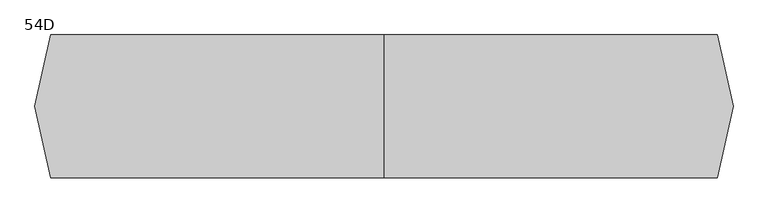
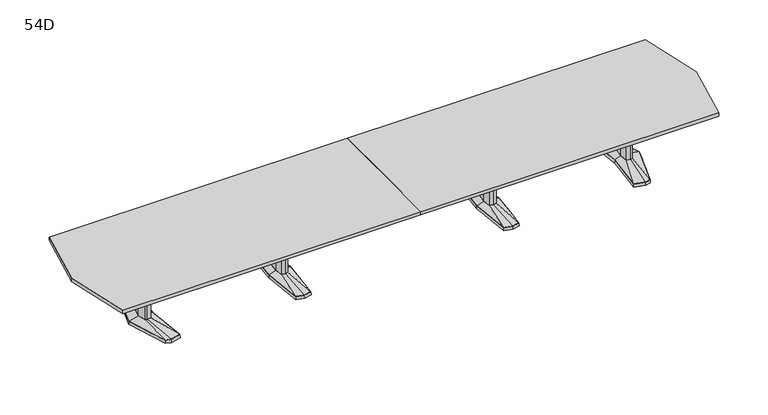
"""IFC4 building model written with IfcOpenShell, lengths in millimetres: furniture geometry, Coalesse_AM_Table_Conference_ETable2_Faceted_22ft_AluminiumBase : 54D."""

from ifc_helpers import new_model, si_unit, frame, origin, place, context, project, spatial, polyline, outline, extrude, faceted_brep, source, transform, mapped, element, save
from ifc_brep_helpers import plane_surface, spline_surface, advanced_brep


def furniture_54d_e478c1e4(model_context):
    return source(origin(), model_context, "Body", "SolidModel", [
        faceted_brep([(1036.3666209, -433.8053819, 38.1), (1117.6, -455.556576, 38.1), (1198.8333791, -433.8053819, 38.1), (1236.6564774, 0.0, 38.1), (1198.8333791, 433.8053819, 38.1), (1117.6, 455.556576, 38.1), (1036.3666209, 433.8053819, 38.1), (998.5435226, 0.0, 38.1), (1034.8817205, -435.0512063, 3.175), (996.95, 0.0, 3.175), (1034.8817205, 435.0512063, 3.175), (1117.6, 457.2, 3.175), (1200.3182795, 435.0512063, 3.175), (1238.25, 0.0, 3.175), (1200.3182795, -435.0512063, 3.175), (1117.6, -457.2, 3.175), (1117.6, 429.2617927, 3.175), (1039.6323194, 408.3850278, 3.175), (1042.8980179, 382.9646737, 3.175), (1117.6, 402.9670094, 3.175), (1192.3019821, 382.9646737, 3.175), (1195.5676806, 408.3850278, 3.175), (1117.6, -429.2617927, 3.175), (1195.5676806, -408.3850278, 3.175), (1192.3019821, -382.9646737, 3.175), (1117.6, -402.9670094, 3.175), (1042.8980179, -382.9646737, 3.175), (1039.6323194, -408.3850278, 3.175), (1045.7425738, 114.6326257, 3.175), (1035.0573924, 0.0, 3.175), (1045.7425738, -114.6326257, 3.175), (1117.6, -133.8761372, 3.175), (1189.4574262, -114.6326257, 3.175), (1200.1426076, 0.0, 3.175), (1189.4574262, 114.6326257, 3.175), (1117.6, 133.8761372, 3.175), (1117.6, 429.2617927, 0.0), (1195.5676806, 408.3850278, 0.0), (1192.3019821, 382.9646737, 0.0), (1117.6, 402.9670094, 0.0), (1042.8980179, 382.9646737, 0.0), (1039.6323194, 408.3850278, 0.0), (1117.6, -429.2617927, 0.0), (1039.6323194, -408.3850278, 0.0), (1042.8980179, -382.9646737, 0.0), (1117.6, -402.9670094, 0.0), (1192.3019821, -382.9646737, 0.0), (1195.5676806, -408.3850278, 0.0), (1045.7425738, 114.6326257, 0.0), (1117.6, 133.8761372, 0.0), (1189.4574262, 114.6326257, 0.0), (1200.1426076, 0.0, 0.0), (1189.4574262, -114.6326257, 0.0), (1117.6, -133.8761372, 0.0), (1045.7425738, -114.6326257, 0.0), (1035.0573924, 0.0, 0.0)], [[[0, 1, 2, 3, 4, 5, 6, 7]], [[8, 9, 10, 11, 12, 13, 14, 15], [16, 17, 18, 19, 20, 21], [22, 23, 24, 25, 26, 27], [28, 29, 30, 31, 32, 33, 34, 35]], [[1, 0, 8, 15]], [[2, 1, 15, 14]], [[3, 2, 14, 13]], [[4, 3, 13, 12]], [[5, 4, 12, 11]], [[6, 5, 11, 10]], [[7, 6, 10, 9]], [[0, 7, 9, 8]], [[36, 37, 38, 39, 40, 41]], [[42, 43, 44, 45, 46, 47]], [[48, 49, 50, 51, 52, 53, 54, 55]], [[36, 41, 17, 16]], [[41, 40, 18, 17]], [[40, 39, 19, 18]], [[39, 38, 20, 19]], [[38, 37, 21, 20]], [[37, 36, 16, 21]], [[42, 47, 23, 22]], [[47, 46, 24, 23]], [[46, 45, 25, 24]], [[45, 44, 26, 25]], [[44, 43, 27, 26]], [[43, 42, 22, 27]], [[48, 55, 29, 28]], [[55, 54, 30, 29]], [[54, 53, 31, 30]], [[53, 52, 32, 31]], [[52, 51, 33, 32]], [[51, 50, 34, 33]], [[50, 49, 35, 34]], [[49, 48, 28, 35]]]),
        faceted_brep([(1081.2167166, 84.6900825, 698.5), (1073.3225513, 0.0, 698.5), (1081.2167166, -84.6900825, 698.5), (1117.6, -94.4335728, 698.5), (1153.9832834, -84.6900825, 698.5), (1161.8774487, 0.0, 698.5), (1153.9832834, 84.6900825, 698.5), (1117.6, 94.4335728, 698.5), (1081.2167166, 84.6900825, 63.5), (1117.6, 94.4335728, 63.5), (1153.9832834, 84.6900825, 63.5), (1161.8774487, 0.0, 63.5), (1153.9832834, -84.6900825, 63.5), (1117.6, -94.4335728, 63.5), (1081.2167166, -84.6900825, 63.5), (1073.3225513, 0.0, 63.5)], [[[0, 1, 2, 3, 4, 5, 6, 7]], [[8, 9, 10, 11, 12, 13, 14, 15]], [[1, 0, 8, 15]], [[2, 1, 15, 14]], [[3, 2, 14, 13]], [[4, 3, 13, 12]], [[5, 4, 12, 11]], [[6, 5, 11, 10]], [[7, 6, 10, 9]], [[0, 7, 9, 8]]]),
        advanced_brep(
        [(1081.2167166, 84.6900825, 63.5), (1073.3225513, 0.0, 63.5), (1081.2167166, -84.6900825, 63.5), (1117.6, -94.4335728, 63.5), (1153.9832834, -84.6900825, 63.5), (1161.8774487, 0.0, 63.5), (1153.9832834, 84.6900825, 63.5), (1117.6, 94.4335728, 63.5), (1036.3666209, 433.8053819, 38.1), (1117.6, 455.556576, 38.1), (1198.8333791, 433.8053819, 38.1), (1236.6564774, 0.0, 38.1), (1198.8333791, -433.8053819, 38.1), (1117.6, -455.556576, 38.1), (1036.3666209, -433.8053819, 38.1), (998.5435226, 0.0, 38.1)],
        [
            (0, 1),
            (1, 2),
            (2, 3),
            (3, 4),
            (4, 5),
            (5, 6),
            (6, 7),
            (7, 0),
            (8, 9),
            (9, 10),
            (10, 11),
            (11, 12),
            (12, 13),
            (13, 14),
            (14, 15),
            (15, 8),
            (15, 1),
            (0, 8),
            (14, 2),
            (13, 3),
            (12, 4),
            (11, 5),
            (10, 6),
            (9, 7),
        ],
        [
            plane_surface(frame((1117.6, 0.0, 63.5), z_axis=(0.0, 0.0, 1.0000000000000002), x_axis=(-0.9659615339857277, -0.25868574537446, 0.0))),
            plane_surface(frame((1117.6, 0.0, 38.1), z_axis=(0.0, 0.0, -1.0000000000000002), x_axis=(-0.9659615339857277, -0.25868574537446, 0.0))),
            spline_surface(1, 1, [[(1036.3666209, 433.8053819, 38.1), (1081.2167166, 84.6900825, 63.5)], [(998.5435226, 0.0, 38.1), (1073.3225513, 0.0, 63.5)]], [2, 2], [2, 2], [0.0, 1.0], [0.0, 1.0]),
            spline_surface(1, 1, [[(998.5435226, 0.0, 38.1), (1073.3225513, 0.0, 63.5)], [(1036.3666209, -433.8053819, 38.1), (1081.2167166, -84.6900825, 63.5)]], [2, 2], [2, 2], [0.0, 1.0], [0.0, 1.0]),
            spline_surface(1, 1, [[(1036.3666209, -433.8053819, 38.1), (1081.2167166, -84.6900825, 63.5)], [(1117.6, -455.556576, 38.1), (1117.6, -94.4335728, 63.5)]], [2, 2], [2, 2], [0.0, 1.0], [0.0, 1.0]),
            spline_surface(1, 1, [[(1117.6, -455.556576, 38.1), (1117.6, -94.4335728, 63.5)], [(1198.8333791, -433.8053819, 38.1), (1153.9832834, -84.6900825, 63.5)]], [2, 2], [2, 2], [0.0, 1.0], [0.0, 1.0]),
            spline_surface(1, 1, [[(1198.8333791, -433.8053819, 38.1), (1153.9832834, -84.6900825, 63.5)], [(1236.6564774, 0.0, 38.1), (1161.8774487, 0.0, 63.5)]], [2, 2], [2, 2], [0.0, 1.0], [0.0, 1.0]),
            spline_surface(1, 1, [[(1236.6564774, 0.0, 38.1), (1161.8774487, 0.0, 63.5)], [(1198.8333791, 433.8053819, 38.1), (1153.9832834, 84.6900825, 63.5)]], [2, 2], [2, 2], [0.0, 1.0], [0.0, 1.0]),
            spline_surface(1, 1, [[(1198.8333791, 433.8053819, 38.1), (1153.9832834, 84.6900825, 63.5)], [(1117.6, 455.556576, 38.1), (1117.6, 94.4335728, 63.5)]], [2, 2], [2, 2], [0.0, 1.0], [0.0, 1.0]),
            spline_surface(1, 1, [[(1117.6, 455.556576, 38.1), (1117.6, 94.4335728, 63.5)], [(1036.3666209, 433.8053819, 38.1), (1081.2167166, 84.6900825, 63.5)]], [2, 2], [2, 2], [0.0, 1.0], [0.0, 1.0]),
        ],
        [
            (0, [[1, 2, 3, 4, 5, 6, 7, 8]]),
            (1, [[9, 10, 11, 12, 13, 14, 15, 16]]),
            (2, [[-16, 17, -1, 18]]),
            (3, [[-15, 19, -2, -17]]),
            (4, [[-14, 20, -3, -19]]),
            (5, [[-13, 21, -4, -20]]),
            (6, [[-12, 22, -5, -21]]),
            (7, [[-11, 23, -6, -22]]),
            (8, [[-10, 24, -7, -23]]),
            (9, [[-9, -18, -8, -24]]),
        ],
    ),
        faceted_brep([(-1198.8333791, -433.8053819, 38.1), (-1117.6, -455.556576, 38.1), (-1036.3666209, -433.8053819, 38.1), (-998.5435226, 0.0, 38.1), (-1036.3666209, 433.8053819, 38.1), (-1117.6, 455.556576, 38.1), (-1198.8333791, 433.8053819, 38.1), (-1236.6564774, 0.0, 38.1), (-1200.3182795, -435.0512063, 3.175), (-1238.25, 0.0, 3.175), (-1200.3182795, 435.0512063, 3.175), (-1117.6, 457.2, 3.175), (-1034.8817205, 435.0512063, 3.175), (-996.95, 0.0, 3.175), (-1034.8817205, -435.0512063, 3.175), (-1117.6, -457.2, 3.175), (-1117.6, 429.2617927, 3.175), (-1195.5676806, 408.3850278, 3.175), (-1192.3019821, 382.9646737, 3.175), (-1117.6, 402.9670094, 3.175), (-1042.8980179, 382.9646737, 3.175), (-1039.6323194, 408.3850278, 3.175), (-1117.6, -429.2617927, 3.175), (-1039.6323194, -408.3850278, 3.175), (-1042.8980179, -382.9646737, 3.175), (-1117.6, -402.9670094, 3.175), (-1192.3019821, -382.9646737, 3.175), (-1195.5676806, -408.3850278, 3.175), (-1189.4574262, 114.6326257, 3.175), (-1200.1426076, 0.0, 3.175), (-1189.4574262, -114.6326257, 3.175), (-1117.6, -133.8761372, 3.175), (-1045.7425738, -114.6326257, 3.175), (-1035.0573924, 0.0, 3.175), (-1045.7425738, 114.6326257, 3.175), (-1117.6, 133.8761372, 3.175), (-1117.6, 429.2617927, 0.0), (-1039.6323194, 408.3850278, 0.0), (-1042.8980179, 382.9646737, 0.0), (-1117.6, 402.9670094, 0.0), (-1192.3019821, 382.9646737, 0.0), (-1195.5676806, 408.3850278, 0.0), (-1117.6, -429.2617927, 0.0), (-1195.5676806, -408.3850278, 0.0), (-1192.3019821, -382.9646737, 0.0), (-1117.6, -402.9670094, 0.0), (-1042.8980179, -382.9646737, 0.0), (-1039.6323194, -408.3850278, 0.0), (-1189.4574262, 114.6326257, 0.0), (-1117.6, 133.8761372, 0.0), (-1045.7425738, 114.6326257, 0.0), (-1035.0573924, 0.0, 0.0), (-1045.7425738, -114.6326257, 0.0), (-1117.6, -133.8761372, 0.0), (-1189.4574262, -114.6326257, 0.0), (-1200.1426076, 0.0, 0.0)], [[[0, 1, 2, 3, 4, 5, 6, 7]], [[8, 9, 10, 11, 12, 13, 14, 15], [16, 17, 18, 19, 20, 21], [22, 23, 24, 25, 26, 27], [28, 29, 30, 31, 32, 33, 34, 35]], [[1, 0, 8, 15]], [[2, 1, 15, 14]], [[3, 2, 14, 13]], [[4, 3, 13, 12]], [[5, 4, 12, 11]], [[6, 5, 11, 10]], [[7, 6, 10, 9]], [[0, 7, 9, 8]], [[36, 37, 38, 39, 40, 41]], [[42, 43, 44, 45, 46, 47]], [[48, 49, 50, 51, 52, 53, 54, 55]], [[36, 41, 17, 16]], [[41, 40, 18, 17]], [[40, 39, 19, 18]], [[39, 38, 20, 19]], [[38, 37, 21, 20]], [[37, 36, 16, 21]], [[42, 47, 23, 22]], [[47, 46, 24, 23]], [[46, 45, 25, 24]], [[45, 44, 26, 25]], [[44, 43, 27, 26]], [[43, 42, 22, 27]], [[48, 55, 29, 28]], [[55, 54, 30, 29]], [[54, 53, 31, 30]], [[53, 52, 32, 31]], [[52, 51, 33, 32]], [[51, 50, 34, 33]], [[50, 49, 35, 34]], [[49, 48, 28, 35]]]),
        faceted_brep([(-1153.9832834, 84.6900825, 698.5), (-1161.8774487, 0.0, 698.5), (-1153.9832834, -84.6900825, 698.5), (-1117.6, -94.4335728, 698.5), (-1081.2167166, -84.6900825, 698.5), (-1073.3225513, 0.0, 698.5), (-1081.2167166, 84.6900825, 698.5), (-1117.6, 94.4335728, 698.5), (-1153.9832834, 84.6900825, 63.5), (-1117.6, 94.4335728, 63.5), (-1081.2167166, 84.6900825, 63.5), (-1073.3225513, 0.0, 63.5), (-1081.2167166, -84.6900825, 63.5), (-1117.6, -94.4335728, 63.5), (-1153.9832834, -84.6900825, 63.5), (-1161.8774487, 0.0, 63.5)], [[[0, 1, 2, 3, 4, 5, 6, 7]], [[8, 9, 10, 11, 12, 13, 14, 15]], [[1, 0, 8, 15]], [[2, 1, 15, 14]], [[3, 2, 14, 13]], [[4, 3, 13, 12]], [[5, 4, 12, 11]], [[6, 5, 11, 10]], [[7, 6, 10, 9]], [[0, 7, 9, 8]]]),
        advanced_brep(
        [(-1153.9832834, 84.6900825, 63.5), (-1161.8774487, 0.0, 63.5), (-1153.9832834, -84.6900825, 63.5), (-1117.6, -94.4335728, 63.5), (-1081.2167166, -84.6900825, 63.5), (-1073.3225513, 0.0, 63.5), (-1081.2167166, 84.6900825, 63.5), (-1117.6, 94.4335728, 63.5), (-1198.8333791, 433.8053819, 38.1), (-1117.6, 455.556576, 38.1), (-1036.3666209, 433.8053819, 38.1), (-998.5435226, 0.0, 38.1), (-1036.3666209, -433.8053819, 38.1), (-1117.6, -455.556576, 38.1), (-1198.8333791, -433.8053819, 38.1), (-1236.6564774, 0.0, 38.1)],
        [
            (0, 1),
            (1, 2),
            (2, 3),
            (3, 4),
            (4, 5),
            (5, 6),
            (6, 7),
            (7, 0),
            (8, 9),
            (9, 10),
            (10, 11),
            (11, 12),
            (12, 13),
            (13, 14),
            (14, 15),
            (15, 8),
            (15, 1),
            (0, 8),
            (14, 2),
            (13, 3),
            (12, 4),
            (11, 5),
            (10, 6),
            (9, 7),
        ],
        [
            plane_surface(frame((-1117.6, 0.0, 63.5), z_axis=(0.0, 0.0, 1.0000000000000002), x_axis=(-0.9659615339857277, -0.25868574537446, 0.0))),
            plane_surface(frame((-1117.6, 0.0, 38.1), z_axis=(0.0, 0.0, -1.0000000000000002), x_axis=(-0.9659615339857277, -0.25868574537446, 0.0))),
            spline_surface(1, 1, [[(-1198.8333791, 433.8053819, 38.1), (-1153.9832834, 84.6900825, 63.5)], [(-1236.6564774, 0.0, 38.1), (-1161.8774487, 0.0, 63.5)]], [2, 2], [2, 2], [0.0, 1.0], [0.0, 1.0]),
            spline_surface(1, 1, [[(-1236.6564774, 0.0, 38.1), (-1161.8774487, 0.0, 63.5)], [(-1198.8333791, -433.8053819, 38.1), (-1153.9832834, -84.6900825, 63.5)]], [2, 2], [2, 2], [0.0, 1.0], [0.0, 1.0]),
            spline_surface(1, 1, [[(-1198.8333791, -433.8053819, 38.1), (-1153.9832834, -84.6900825, 63.5)], [(-1117.6, -455.556576, 38.1), (-1117.6, -94.4335728, 63.5)]], [2, 2], [2, 2], [0.0, 1.0], [0.0, 1.0]),
            spline_surface(1, 1, [[(-1117.6, -455.556576, 38.1), (-1117.6, -94.4335728, 63.5)], [(-1036.3666209, -433.8053819, 38.1), (-1081.2167166, -84.6900825, 63.5)]], [2, 2], [2, 2], [0.0, 1.0], [0.0, 1.0]),
            spline_surface(1, 1, [[(-1036.3666209, -433.8053819, 38.1), (-1081.2167166, -84.6900825, 63.5)], [(-998.5435226, 0.0, 38.1), (-1073.3225513, 0.0, 63.5)]], [2, 2], [2, 2], [0.0, 1.0], [0.0, 1.0]),
            spline_surface(1, 1, [[(-998.5435226, 0.0, 38.1), (-1073.3225513, 0.0, 63.5)], [(-1036.3666209, 433.8053819, 38.1), (-1081.2167166, 84.6900825, 63.5)]], [2, 2], [2, 2], [0.0, 1.0], [0.0, 1.0]),
            spline_surface(1, 1, [[(-1036.3666209, 433.8053819, 38.1), (-1081.2167166, 84.6900825, 63.5)], [(-1117.6, 455.556576, 38.1), (-1117.6, 94.4335728, 63.5)]], [2, 2], [2, 2], [0.0, 1.0], [0.0, 1.0]),
            spline_surface(1, 1, [[(-1117.6, 455.556576, 38.1), (-1117.6, 94.4335728, 63.5)], [(-1198.8333791, 433.8053819, 38.1), (-1153.9832834, 84.6900825, 63.5)]], [2, 2], [2, 2], [0.0, 1.0], [0.0, 1.0]),
        ],
        [
            (0, [[1, 2, 3, 4, 5, 6, 7, 8]]),
            (1, [[9, 10, 11, 12, 13, 14, 15, 16]]),
            (2, [[-16, 17, -1, 18]]),
            (3, [[-15, 19, -2, -17]]),
            (4, [[-14, 20, -3, -19]]),
            (5, [[-13, 21, -4, -20]]),
            (6, [[-12, 22, -5, -21]]),
            (7, [[-11, 23, -6, -22]]),
            (8, [[-10, 24, -7, -23]]),
            (9, [[-9, -18, -8, -24]]),
        ],
    ),
        faceted_brep([(2548.0994335, 455.5848221, 38.1), (2438.5218777, 426.2263816, 38.1), (2479.6851217, 0.0, 38.1), (2438.5218777, -426.2263816, 38.1), (2548.0994335, -455.5848221, 38.1), (2604.2257896, -440.5478297, 38.1), (2741.5371769, 0.0, 38.1), (2604.2257896, 440.5478297, 38.1), (2548.0994254, 457.2283104, 3.175), (2605.4811972, 441.8549756, 3.175), (2743.2, 0.0, 3.175), (2605.4811972, -441.8549756, 3.175), (2548.0994254, -457.2283104, 3.175), (2436.8125, -427.4118891, 3.175), (2478.0902356, 0.0, 3.175), (2436.8125, 427.4118891, 3.175), (2551.688865, 428.3273875, 3.175), (2446.6405728, 402.1057253, 3.175), (2454.759268, 377.985069, 3.175), (2555.2782966, 401.0699529, 3.175), (2605.8379225, 387.524361, 3.175), (2605.0318561, 414.0360954, 3.175), (2551.688865, -428.3273875, 3.175), (2605.0318561, -414.0360954, 3.175), (2605.8379225, -387.524361, 3.175), (2555.2782966, -401.0699529, 3.175), (2454.759268, -377.985069, 3.175), (2446.6405728, -402.1057253, 3.175), (2678.2841121, 0.0, 3.175), (2646.0147111, 120.4193755, 3.175), (2597.3674722, 133.471665, 3.175), (2517.4868026, 119.4176561, 3.175), (2506.3555966, 0.0, 3.175), (2517.4868026, -119.4176561, 3.175), (2597.3674722, -133.471665, 3.175), (2646.0147111, -120.4193755, 3.175), (2551.688865, 428.3273875, 0.0), (2605.0318561, 414.0360954, 0.0), (2605.8379225, 387.524361, 0.0), (2555.2782966, 401.0699529, 0.0), (2454.759268, 377.985069, 0.0), (2446.6405728, 402.1057253, 0.0), (2551.688865, -428.3273875, 0.0), (2446.6405728, -402.1057253, 0.0), (2454.759268, -377.985069, 0.0), (2555.2782966, -401.0699529, 0.0), (2605.8379225, -387.524361, 0.0), (2605.0318561, -414.0360954, 0.0), (2678.2841121, 0.0, 0.0), (2646.0147111, -120.4193755, 0.0), (2597.3674722, -133.471665, 0.0), (2517.4868026, -119.4176561, 0.0), (2506.3555966, 0.0, 0.0), (2517.4868026, 119.4176561, 0.0), (2597.3674722, 133.471665, 0.0), (2646.0147111, 120.4193755, 0.0)], [[[0, 1, 2, 3, 4, 5, 6, 7]], [[8, 9, 10, 11, 12, 13, 14, 15], [16, 17, 18, 19, 20, 21], [22, 23, 24, 25, 26, 27], [28, 29, 30, 31, 32, 33, 34, 35]], [[7, 9, 8, 0]], [[6, 10, 9, 7]], [[5, 11, 10, 6]], [[4, 12, 11, 5]], [[3, 13, 12, 4]], [[2, 14, 13, 3]], [[1, 15, 14, 2]], [[0, 8, 15, 1]], [[36, 37, 38, 39, 40, 41]], [[42, 43, 44, 45, 46, 47]], [[48, 49, 50, 51, 52, 53, 54, 55]], [[36, 16, 21, 37]], [[37, 21, 20, 38]], [[38, 20, 19, 39]], [[39, 19, 18, 40]], [[40, 18, 17, 41]], [[41, 17, 16, 36]], [[42, 22, 27, 43]], [[43, 27, 26, 44]], [[44, 26, 25, 45]], [[45, 25, 24, 46]], [[46, 24, 23, 47]], [[47, 23, 22, 42]], [[48, 28, 35, 49]], [[49, 35, 34, 50]], [[50, 34, 33, 51]], [[51, 33, 32, 52]], [[52, 32, 31, 53]], [[53, 31, 30, 54]], [[54, 30, 29, 55]], [[55, 29, 28, 48]]]),
        faceted_brep([(2638.8398336, 0.0, 698.5), (2614.9046046, 89.3188359, 698.5), (2598.0512484, 93.8406728, 698.5), (2595.6514011, 94.4845635, 698.5), (2552.723896, 86.9320037, 698.5), (2544.6207556, 0.0, 698.5), (2552.723896, -86.9320037, 698.5), (2595.6514011, -94.4845635, 698.5), (2598.0512484, -93.8406728, 698.5), (2614.9046046, -89.3188359, 698.5), (2638.8398336, 0.0, 63.5), (2614.9046046, -89.3188359, 63.5), (2598.0512484, -93.8406728, 63.5), (2595.6514011, -94.4845635, 63.5), (2552.723896, -86.9320037, 63.5), (2544.6207556, 0.0, 63.5), (2552.723896, 86.9320037, 63.5), (2595.6514011, 94.4845635, 63.5), (2598.0512484, 93.8406728, 63.5), (2614.9046046, 89.3188359, 63.5)], [[[0, 1, 2, 3, 4, 5, 6, 7, 8, 9]], [[10, 11, 12, 13, 14, 15, 16, 17, 18, 19]], [[9, 11, 10, 0]], [[8, 12, 11, 9]], [[7, 13, 12, 8]], [[6, 14, 13, 7]], [[5, 15, 14, 6]], [[4, 16, 15, 5]], [[3, 17, 16, 4]], [[2, 18, 17, 3]], [[1, 19, 18, 2]], [[0, 10, 19, 1]]]),
        advanced_brep(
        [(2595.6514011, 94.4845635, 63.5), (2552.723896, 86.9320037, 63.5), (2544.6207556, 0.0, 63.5), (2552.723896, -86.9320037, 63.5), (2595.6514011, -94.4845635, 63.5), (2614.9046046, -89.3188359, 63.5), (2638.8398336, 0.0, 63.5), (2614.9046046, 89.3188359, 63.5), (2548.0994335, 455.5848221, 38.1), (2604.2257896, 440.5478297, 38.1), (2741.5371769, 0.0, 38.1), (2604.2257896, -440.5478297, 38.1), (2548.0994335, -455.5848221, 38.1), (2438.5218777, -426.2263816, 38.1), (2479.6851217, 0.0, 38.1), (2438.5218777, 426.2263816, 38.1)],
        [
            (0, 1),
            (1, 2),
            (2, 3),
            (3, 4),
            (4, 5),
            (5, 6),
            (6, 7),
            (7, 0),
            (8, 9),
            (9, 10),
            (10, 11),
            (11, 12),
            (12, 13),
            (13, 14),
            (14, 15),
            (15, 8),
            (8, 0),
            (7, 9),
            (6, 10),
            (5, 11),
            (4, 12),
            (3, 13),
            (2, 14),
            (1, 15),
        ],
        [
            plane_surface(frame((2588.7525491, 0.0, 63.5), z_axis=(0.0, 0.0, 1.0), x_axis=(-0.25884244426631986, -0.9659195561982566, 0.0))),
            plane_surface(frame((2550.3645625, 0.0, 38.1), z_axis=(0.0, 0.0, -1.0), x_axis=(-0.25884244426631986, -0.9659195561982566, 0.0))),
            spline_surface(1, 1, [[(2548.0994335, 455.5848221, 38.1), (2604.2257896, 440.5478297, 38.1)], [(2595.6514011, 94.4845635, 63.5), (2614.9046046, 89.3188359, 63.5)]], [2, 2], [2, 2], [0.0, 1.0], [0.0, 1.0]),
            spline_surface(1, 1, [[(2604.2257896, 440.5478297, 38.1), (2741.5371769, 0.0, 38.1)], [(2614.9046046, 89.3188359, 63.5), (2638.8398336, 0.0, 63.5)]], [2, 2], [2, 2], [0.0, 1.0], [0.0, 1.0]),
            spline_surface(1, 1, [[(2741.5371769, 0.0, 38.1), (2604.2257896, -440.5478297, 38.1)], [(2638.8398336, 0.0, 63.5), (2614.9046046, -89.3188359, 63.5)]], [2, 2], [2, 2], [0.0, 1.0], [0.0, 1.0]),
            spline_surface(1, 1, [[(2604.2257896, -440.5478297, 38.1), (2548.0994335, -455.5848221, 38.1)], [(2614.9046046, -89.3188359, 63.5), (2595.6514011, -94.4845635, 63.5)]], [2, 2], [2, 2], [0.0, 1.0], [0.0, 1.0]),
            spline_surface(1, 1, [[(2548.0994335, -455.5848221, 38.1), (2438.5218777, -426.2263816, 38.1)], [(2595.6514011, -94.4845635, 63.5), (2552.723896, -86.9320037, 63.5)]], [2, 2], [2, 2], [0.0, 1.0], [0.0, 1.0]),
            spline_surface(1, 1, [[(2438.5218777, -426.2263816, 38.1), (2479.6851217, 0.0, 38.1)], [(2552.723896, -86.9320037, 63.5), (2544.6207556, 0.0, 63.5)]], [2, 2], [2, 2], [0.0, 1.0], [0.0, 1.0]),
            spline_surface(1, 1, [[(2479.6851217, 0.0, 38.1), (2438.5218777, 426.2263816, 38.1)], [(2544.6207556, 0.0, 63.5), (2552.723896, 86.9320037, 63.5)]], [2, 2], [2, 2], [0.0, 1.0], [0.0, 1.0]),
            spline_surface(1, 1, [[(2438.5218777, 426.2263816, 38.1), (2548.0994335, 455.5848221, 38.1)], [(2552.723896, 86.9320037, 63.5), (2595.6514011, 94.4845635, 63.5)]], [2, 2], [2, 2], [0.0, 1.0], [0.0, 1.0]),
        ],
        [
            (0, [[1, 2, 3, 4, 5, 6, 7, 8]]),
            (1, [[9, 10, 11, 12, 13, 14, 15, 16]]),
            (2, [[17, -8, 18, -9]]),
            (3, [[-18, -7, 19, -10]]),
            (4, [[-19, -6, 20, -11]]),
            (5, [[-20, -5, 21, -12]]),
            (6, [[-21, -4, 22, -13]]),
            (7, [[-22, -3, 23, -14]]),
            (8, [[-23, -2, 24, -15]]),
            (9, [[-24, -1, -17, -16]]),
        ],
    ),
        faceted_brep([(-2548.0994335, 455.5848221, 38.1), (-2604.2257896, 440.5478297, 38.1), (-2741.5371769, 0.0, 38.1), (-2604.2257896, -440.5478297, 38.1), (-2548.0994335, -455.5848221, 38.1), (-2438.5218777, -426.2263816, 38.1), (-2479.6851217, 0.0, 38.1), (-2438.5218777, 426.2263816, 38.1), (-2548.0994254, 457.2283104, 3.175), (-2436.8125, 427.4118891, 3.175), (-2478.0902356, 0.0, 3.175), (-2436.8125, -427.4118891, 3.175), (-2548.0994254, -457.2283104, 3.175), (-2605.4811972, -441.8549756, 3.175), (-2743.2, 0.0, 3.175), (-2605.4811972, 441.8549756, 3.175), (-2551.688865, 428.3273875, 3.175), (-2605.0318561, 414.0360954, 3.175), (-2605.8379225, 387.524361, 3.175), (-2555.2782966, 401.0699529, 3.175), (-2454.759268, 377.985069, 3.175), (-2446.6405728, 402.1057253, 3.175), (-2551.688865, -428.3273875, 3.175), (-2446.6405728, -402.1057253, 3.175), (-2454.759268, -377.985069, 3.175), (-2555.2782966, -401.0699529, 3.175), (-2605.8379225, -387.524361, 3.175), (-2605.0318561, -414.0360954, 3.175), (-2678.2841121, 0.0, 3.175), (-2646.0147111, -120.4193755, 3.175), (-2597.3674722, -133.471665, 3.175), (-2517.4868026, -119.4176561, 3.175), (-2506.3555966, 0.0, 3.175), (-2517.4868026, 119.4176561, 3.175), (-2597.3674722, 133.471665, 3.175), (-2646.0147111, 120.4193755, 3.175), (-2551.688865, 428.3273875, 0.0), (-2446.6405728, 402.1057253, 0.0), (-2454.759268, 377.985069, 0.0), (-2555.2782966, 401.0699529, 0.0), (-2605.8379225, 387.524361, 0.0), (-2605.0318561, 414.0360954, 0.0), (-2551.688865, -428.3273875, 0.0), (-2605.0318561, -414.0360954, 0.0), (-2605.8379225, -387.524361, 0.0), (-2555.2782966, -401.0699529, 0.0), (-2454.759268, -377.985069, 0.0), (-2446.6405728, -402.1057253, 0.0), (-2678.2841121, 0.0, 0.0), (-2646.0147111, 120.4193755, 0.0), (-2597.3674722, 133.471665, 0.0), (-2517.4868026, 119.4176561, 0.0), (-2506.3555966, 0.0, 0.0), (-2517.4868026, -119.4176561, 0.0), (-2597.3674722, -133.471665, 0.0), (-2646.0147111, -120.4193755, 0.0)], [[[0, 1, 2, 3, 4, 5, 6, 7]], [[8, 9, 10, 11, 12, 13, 14, 15], [16, 17, 18, 19, 20, 21], [22, 23, 24, 25, 26, 27], [28, 29, 30, 31, 32, 33, 34, 35]], [[1, 0, 8, 15]], [[2, 1, 15, 14]], [[3, 2, 14, 13]], [[4, 3, 13, 12]], [[5, 4, 12, 11]], [[6, 5, 11, 10]], [[7, 6, 10, 9]], [[0, 7, 9, 8]], [[36, 37, 38, 39, 40, 41]], [[42, 43, 44, 45, 46, 47]], [[48, 49, 50, 51, 52, 53, 54, 55]], [[36, 41, 17, 16]], [[41, 40, 18, 17]], [[40, 39, 19, 18]], [[39, 38, 20, 19]], [[38, 37, 21, 20]], [[37, 36, 16, 21]], [[42, 47, 23, 22]], [[47, 46, 24, 23]], [[46, 45, 25, 24]], [[45, 44, 26, 25]], [[44, 43, 27, 26]], [[43, 42, 22, 27]], [[48, 55, 29, 28]], [[55, 54, 30, 29]], [[54, 53, 31, 30]], [[53, 52, 32, 31]], [[52, 51, 33, 32]], [[51, 50, 34, 33]], [[50, 49, 35, 34]], [[49, 48, 28, 35]]]),
        faceted_brep([(-2638.8398336, 0.0, 698.5), (-2614.9046046, -89.3188359, 698.5), (-2598.0512484, -93.8406728, 698.5), (-2595.6514011, -94.4845635, 698.5), (-2552.723896, -86.9320037, 698.5), (-2544.6207556, 0.0, 698.5), (-2552.723896, 86.9320037, 698.5), (-2595.6514011, 94.4845635, 698.5), (-2598.0512484, 93.8406728, 698.5), (-2614.9046046, 89.3188359, 698.5), (-2638.8398336, 0.0, 63.5), (-2614.9046046, 89.3188359, 63.5), (-2598.0512484, 93.8406728, 63.5), (-2595.6514011, 94.4845635, 63.5), (-2552.723896, 86.9320037, 63.5), (-2544.6207556, 0.0, 63.5), (-2552.723896, -86.9320037, 63.5), (-2595.6514011, -94.4845635, 63.5), (-2598.0512484, -93.8406728, 63.5), (-2614.9046046, -89.3188359, 63.5)], [[[0, 1, 2, 3, 4, 5, 6, 7, 8, 9]], [[10, 11, 12, 13, 14, 15, 16, 17, 18, 19]], [[1, 0, 10, 19]], [[2, 1, 19, 18]], [[3, 2, 18, 17]], [[4, 3, 17, 16]], [[5, 4, 16, 15]], [[6, 5, 15, 14]], [[7, 6, 14, 13]], [[8, 7, 13, 12]], [[9, 8, 12, 11]], [[0, 9, 11, 10]]]),
        advanced_brep(
        [(-2595.6514011, 94.4845635, 63.5), (-2614.9046046, 89.3188359, 63.5), (-2638.8398336, 0.0, 63.5), (-2614.9046046, -89.3188359, 63.5), (-2595.6514011, -94.4845635, 63.5), (-2552.723896, -86.9320037, 63.5), (-2544.6207556, 0.0, 63.5), (-2552.723896, 86.9320037, 63.5), (-2548.0994335, 455.5848221, 38.1), (-2438.5218777, 426.2263816, 38.1), (-2479.6851217, 0.0, 38.1), (-2438.5218777, -426.2263816, 38.1), (-2548.0994335, -455.5848221, 38.1), (-2604.2257896, -440.5478297, 38.1), (-2741.5371769, 0.0, 38.1), (-2604.2257896, 440.5478297, 38.1)],
        [
            (0, 1),
            (1, 2),
            (2, 3),
            (3, 4),
            (4, 5),
            (5, 6),
            (6, 7),
            (7, 0),
            (8, 9),
            (9, 10),
            (10, 11),
            (11, 12),
            (12, 13),
            (13, 14),
            (14, 15),
            (15, 8),
            (15, 1),
            (0, 8),
            (14, 2),
            (13, 3),
            (12, 4),
            (11, 5),
            (10, 6),
            (9, 7),
        ],
        [
            plane_surface(frame((-2588.7525491, 0.0, 63.5), z_axis=(0.0, 0.0, 1.0), x_axis=(0.25884244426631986, -0.9659195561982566, 0.0))),
            plane_surface(frame((-2550.3645625, 0.0, 38.1), z_axis=(0.0, 0.0, -1.0), x_axis=(0.25884244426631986, -0.9659195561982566, 0.0))),
            spline_surface(1, 1, [[(-2548.0994335, 455.5848221, 38.1), (-2595.6514011, 94.4845635, 63.5)], [(-2604.2257896, 440.5478297, 38.1), (-2614.9046046, 89.3188359, 63.5)]], [2, 2], [2, 2], [0.0, 1.0], [0.0, 1.0]),
            spline_surface(1, 1, [[(-2604.2257896, 440.5478297, 38.1), (-2614.9046046, 89.3188359, 63.5)], [(-2741.5371769, 0.0, 38.1), (-2638.8398336, 0.0, 63.5)]], [2, 2], [2, 2], [0.0, 1.0], [0.0, 1.0]),
            spline_surface(1, 1, [[(-2741.5371769, 0.0, 38.1), (-2638.8398336, 0.0, 63.5)], [(-2604.2257896, -440.5478297, 38.1), (-2614.9046046, -89.3188359, 63.5)]], [2, 2], [2, 2], [0.0, 1.0], [0.0, 1.0]),
            spline_surface(1, 1, [[(-2604.2257896, -440.5478297, 38.1), (-2614.9046046, -89.3188359, 63.5)], [(-2548.0994335, -455.5848221, 38.1), (-2595.6514011, -94.4845635, 63.5)]], [2, 2], [2, 2], [0.0, 1.0], [0.0, 1.0]),
            spline_surface(1, 1, [[(-2548.0994335, -455.5848221, 38.1), (-2595.6514011, -94.4845635, 63.5)], [(-2438.5218777, -426.2263816, 38.1), (-2552.723896, -86.9320037, 63.5)]], [2, 2], [2, 2], [0.0, 1.0], [0.0, 1.0]),
            spline_surface(1, 1, [[(-2438.5218777, -426.2263816, 38.1), (-2552.723896, -86.9320037, 63.5)], [(-2479.6851217, 0.0, 38.1), (-2544.6207556, 0.0, 63.5)]], [2, 2], [2, 2], [0.0, 1.0], [0.0, 1.0]),
            spline_surface(1, 1, [[(-2479.6851217, 0.0, 38.1), (-2544.6207556, 0.0, 63.5)], [(-2438.5218777, 426.2263816, 38.1), (-2552.723896, 86.9320037, 63.5)]], [2, 2], [2, 2], [0.0, 1.0], [0.0, 1.0]),
            spline_surface(1, 1, [[(-2438.5218777, 426.2263816, 38.1), (-2552.723896, 86.9320037, 63.5)], [(-2548.0994335, 455.5848221, 38.1), (-2595.6514011, 94.4845635, 63.5)]], [2, 2], [2, 2], [0.0, 1.0], [0.0, 1.0]),
        ],
        [
            (0, [[1, 2, 3, 4, 5, 6, 7, 8]]),
            (1, [[9, 10, 11, 12, 13, 14, 15, 16]]),
            (2, [[-16, 17, -1, 18]]),
            (3, [[-15, 19, -2, -17]]),
            (4, [[-14, 20, -3, -19]]),
            (5, [[-13, 21, -4, -20]]),
            (6, [[-12, 22, -5, -21]]),
            (7, [[-11, 23, -6, -22]]),
            (8, [[-10, 24, -7, -23]]),
            (9, [[-9, -18, -8, -24]]),
        ],
    ),
        extrude(outline(polyline([(96.8375, 698.5), (103.1875, 698.5), (103.1875, 476.25), (-103.1875, 476.25), (-103.1875, 698.5), (-96.8375, 698.5), (-96.8375, 482.6), (96.8375, 482.6), (96.8375, 698.5)])), frame((1161.8774487, 0.0, 0.0), z_axis=(1.0, 0.0, 0.0), x_axis=(0.0, 1.0, 0.0)), (0.0, 0.0, 1.0), 1382.8850513),
        extrude(outline(polyline([(96.8375, 698.5), (103.1875, 698.5), (103.1875, 476.25), (-103.1875, 476.25), (-103.1875, 698.5), (-96.8375, 698.5), (-96.8375, 482.6), (96.8375, 482.6), (96.8375, 698.5)])), frame((-1073.3225513, 0.0, 0.0), z_axis=(1.0, 0.0, 0.0), x_axis=(0.0, 1.0, 0.0)), (0.0, 0.0, 1.0), 2146.6451026),
        extrude(outline(polyline([(3200.7609518, 685.8), (3352.8, 0.0), (3200.7609518, -685.8), (0.0, -685.8), (0.0, 17.4619671), (0.0, 685.8), (3200.7609518, 685.8)])), frame((0.0, 0.0, 698.5), z_axis=(0.0, 0.0, 1.0), x_axis=(1.0, 0.0, 0.0)), (0.0, 0.0, 1.0), 38.1),
        extrude(outline(polyline([(0.0, 51.8614523), (0.0, -685.8), (-3200.7609518, -685.8), (-3352.8, 0.0), (-3200.7609518, 685.8), (0.0, 685.8), (0.0, 51.8614523)])), frame((0.0, 0.0, 698.5), z_axis=(0.0, 0.0, 1.0), x_axis=(1.0, 0.0, 0.0)), (0.0, 0.0, 1.0), 38.1),
        extrude(outline(polyline([(96.8375, 698.5), (103.1875, 698.5), (103.1875, 476.25), (-103.1875, 476.25), (-103.1875, 698.5), (-96.8375, 698.5), (-96.8375, 482.6), (96.8375, 482.6), (96.8375, 698.5)])), frame((-2544.7625, 0.0, 0.0), z_axis=(1.0, 0.0, 0.0), x_axis=(0.0, 1.0, 0.0)), (0.0, 0.0, 1.0), 1382.8850513),
    ])


if __name__ == "__main__":
    model = new_model("IFC4")
    model_context = context("Model", 3, world=origin())
    ifc_project = project(units=[si_unit("LENGTHUNIT", "METRE", prefix="MILLI")], contexts=[model_context])
    site = spatial("IfcSite", under=ifc_project)
    building = spatial("IfcBuilding", under=site)
    placement = place(None, origin())
    furniture_54d_shape = furniture_54d_e478c1e4(model_context)
    element("IfcFurniture", 1, ObjectType="Coalesse_AM_Table_Conference_ETable2_Faceted_22ft_AluminiumBase : 54D", at=placement, inside=building, context=model_context, shape_type="MappedRepresentation", body=[
        mapped(furniture_54d_shape, transform((0.0, 0.0, 0.0), x_axis=(1.0, 0.0, 0.0), y_axis=(0.0, 1.0, 0.0), z_axis=(0.0, 0.0, 1.0))),
    ])
    save(model, "model.ifc")
